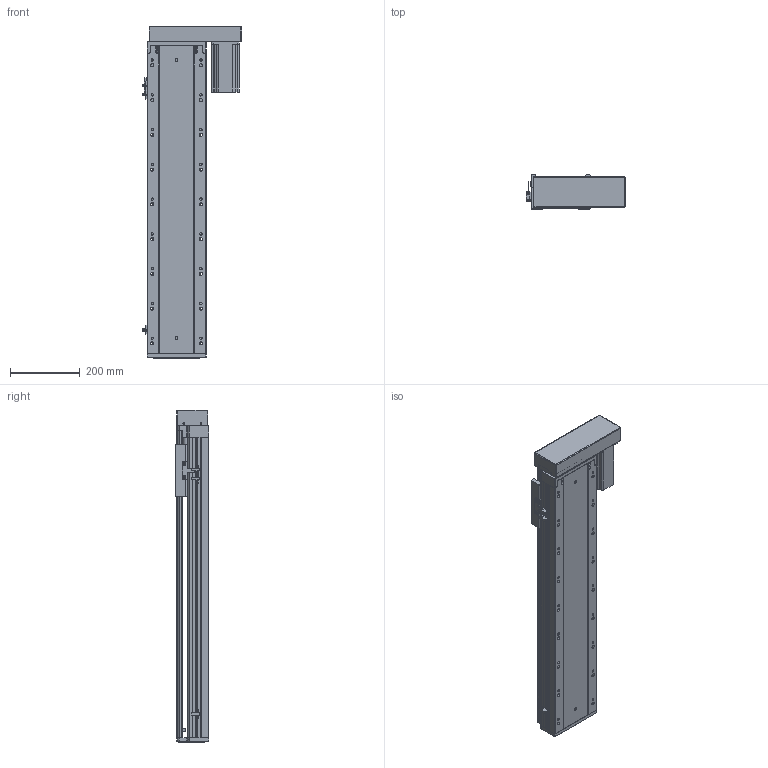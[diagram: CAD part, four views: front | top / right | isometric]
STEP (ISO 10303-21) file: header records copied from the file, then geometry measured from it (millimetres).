
FILE_DESCRIPTION (( 'STEP AP203' ), '1' );
FILE_NAME ('RY170-L2510-300-RK.SLDASM_650.step', '2021-03-12T09:19:28', ( '盈信电脑' ), ( '东莞市道滘镇水果街19号' ), 'SwSTEP 2.0', 'SolidWorks 2012', '' );
FILE_SCHEMA (( 'CONFIG_CONTROL_DESIGN' ));
Products named in the file (14): RY170-L2510-300-RK.SLDASM_650; RY170外置感应片(200共用）; 怢湛750W萇儂ㄗ80遺ㄘ; 覜茼ん672; RY170-酘衵殏750W萇儂傷; RY170转折电机端支撑座(7004); RY170-左右折电机安装板750W; RY170酘衵殏萇儂欶750W; RY170-300倰第裔啣-RK_650; 滅袉蝶18-20; 滅袉蝶18-10; RY170綴裔啣; RY170-300倰第菁釱-RK_650; 改造-RY170铝滑块25丝杆螺母
Assembly tree (15 placements, depth 3):
  RY170-L2510-300-RK.SLDASM_650
    RY170-300倰第菁釱-RK_650
    改造-RY170铝滑块25丝杆螺母
    RY170-300倰第裔啣-RK_650
    RY170綴裔啣
    滅袉蝶18-20
    滅袉蝶18-10
    RY170转折电机端支撑座(7004)
    RY170-酘衵殏750W萇儂傷
      RY170-左右折电机安装板750W
      RY170酘衵殏萇儂欶750W
      怢湛750W萇儂ㄗ80遺ㄘ
    覜茼ん672  x3
    RY170外置感应片(200共用）
Bounding box: 286.2 x 97 x 955 mm (x, y, z)
Volume: 5736715.9 mm3; surface area: 1738750.4 mm2
Topology: 14 solids, 14 shells, 2199 faces, 6354 edges, 4096 vertices
Faces by surface type: plane 1090, cylinder 928, cone 162, bspline 19
Entity records: 72083 total; most frequent: CARTESIAN_POINT 17673, ORIENTED_EDGE 11476, DIRECTION 10506, EDGE_CURVE 5738, VERTEX_POINT 3776, AXIS2_PLACEMENT_3D 3507, VECTOR 3492, LINE 3492
